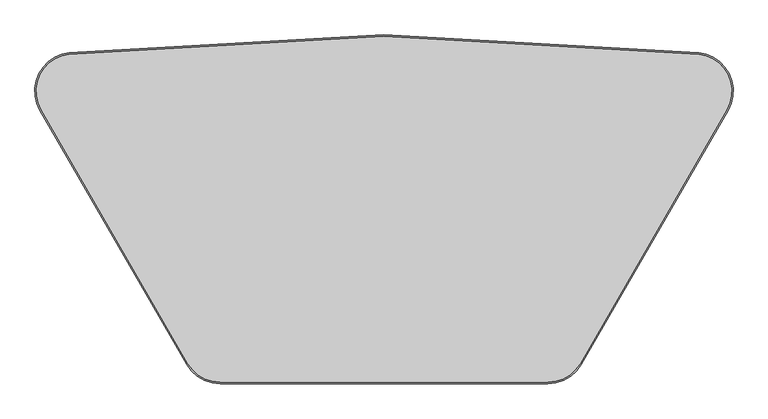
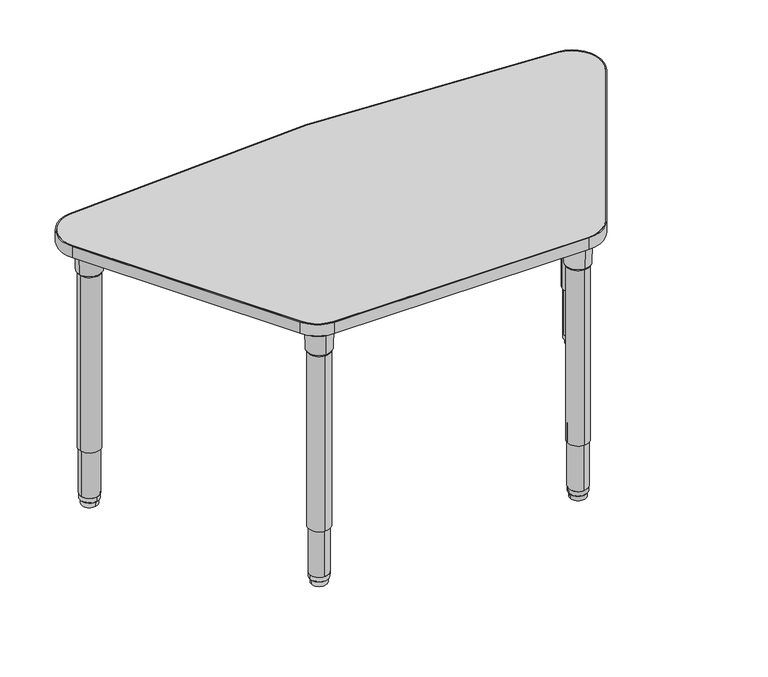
"""IFC4 building model written with IfcOpenShell, lengths in millimetres: furniture geometry, ERG-Mingle-Table-Bowed_Trapezoid : MGLTZD."""

from ifc_helpers import new_model, si_unit, point, frame, frame_2d, origin, place, context, project, spatial, polyline, circle_curve, trimmed, segment, composite_curve, outline, extrude, source, transform, mapped, element, save
from ifc_brep_helpers import plane_surface, cylinder_surface, revolved_surface, advanced_brep


def furniture_8084dfe0(model_context):
    return source(origin(), model_context, "Body", "SolidModel", [
        advanced_brep(
        [(342.9, -249.3646842, 650.5933069), (342.9, -279.4, 650.5933069), (342.9, -309.4353158, 650.5933069), (342.9, -247.256117, 654.3580481), (342.9, -311.543883, 654.3580481), (342.9, -246.3206351, 707.7631458), (342.9, -312.4793649, 707.7631458), (342.9, -242.871083, 714.1198315), (342.9, -315.928917, 714.1198315), (342.9, -242.871083, 726.8198315), (342.9, -315.928917, 726.8198315), (342.9, -279.4, 726.8198315)],
        [
            (0, 1),
            (1, 2),
            (2, 0, circle_curve(frame((342.9, -279.4, 650.5933069), z_axis=(0.0, 0.0, -1.0), x_axis=(0.0, -1.0, 0.0)), 30.0353158)),
            (0, 2, circle_curve(frame((342.9, -279.4, 650.5933069), z_axis=(0.0, 0.0, -1.0), x_axis=(0.0, -1.0, 0.0)), 30.0353158)),
            (3, 0),
            (2, 4),
            (4, 3, circle_curve(frame((342.9, -279.4, 654.3580481), z_axis=(0.0, 0.0, -1.0), x_axis=(0.0, -1.0, 0.0)), 32.143883)),
            (3, 4, circle_curve(frame((342.9, -279.4, 654.3580481), z_axis=(0.0, 0.0, -1.0), x_axis=(0.0, -1.0, 0.0)), 32.143883)),
            (5, 3),
            (4, 6),
            (6, 5, circle_curve(frame((342.9, -279.4, 707.7631458), z_axis=(0.0, 0.0, -1.0), x_axis=(0.0, -1.0, 0.0)), 33.0793649)),
            (5, 6, circle_curve(frame((342.9, -279.4, 707.7631458), z_axis=(0.0, 0.0, -1.0), x_axis=(0.0, -1.0, 0.0)), 33.0793649)),
            (7, 5),
            (6, 8),
            (8, 7, circle_curve(frame((342.9, -279.4, 714.1198315), z_axis=(0.0, 0.0, -1.0), x_axis=(0.0, -1.0, 0.0)), 36.528917)),
            (7, 8, circle_curve(frame((342.9, -279.4, 714.1198315), z_axis=(0.0, 0.0, -1.0), x_axis=(0.0, -1.0, 0.0)), 36.528917)),
            (9, 7),
            (8, 10),
            (10, 9, circle_curve(frame((342.9, -279.4, 726.8198315), z_axis=(0.0, 0.0, -1.0), x_axis=(0.0, -1.0, 0.0)), 36.528917)),
            (9, 10, circle_curve(frame((342.9, -279.4, 726.8198315), z_axis=(0.0, 0.0, -1.0), x_axis=(0.0, -1.0, 0.0)), 36.528917)),
            (11, 9),
            (10, 11),
        ],
        [
            plane_surface(frame((342.9, -279.4, 650.5933069), z_axis=(0.0, 0.0, -1.0), x_axis=(0.0, -1.0, 0.0))),
            revolved_surface(polyline([(342.9, -309.4353158, 650.5933069), (342.9, -311.543883, 654.3580481)]), (342.9, -279.4, 726.8198315), (0.0, 0.0, 1.0)),
            revolved_surface(polyline([(342.9, -311.543883, 654.3580481), (342.9, -312.4793649, 707.7631458)]), (342.9, -279.4, 726.8198315), (0.0, 0.0, 1.0)),
            revolved_surface(polyline([(342.9, -312.4793649, 707.7631458), (342.9, -315.928917, 714.1198315)]), (342.9, -279.4, 726.8198315), (0.0, 0.0, 1.0)),
            cylinder_surface(frame((342.9, -279.4, 726.8198315), z_axis=(0.0, 0.0, 1.0), x_axis=(0.0, -1.0, 0.0)), 36.528917),
            plane_surface(frame((342.9, -279.4, 726.8198315), z_axis=(0.0, 0.0, 1.0), x_axis=(0.0, -1.0, 0.0))),
        ],
        [
            (0, [[1, 2, 3]]),
            (0, [[-2, -1, 4]]),
            (1, [[5, -3, 6, 7]]),
            (1, [[-6, -4, -5, 8]]),
            (2, [[9, -7, 10, 11]]),
            (2, [[-10, -8, -9, 12]]),
            (3, [[13, -11, 14, 15]]),
            (3, [[-14, -12, -13, 16]]),
            (4, [[17, -15, 18, 19]]),
            (4, [[-18, -16, -17, 20]]),
            (5, [[21, -19, 22]]),
            (5, [[-22, -20, -21]]),
        ],
    ),
        extrude(outline(composite_curve([segment(trimmed(circle_curve(frame_2d((260.3223426, -312.573768)), 12.7), [point((260.3223426, -325.273768))], [point((247.6852622, -311.3111525))], False, "CARTESIAN"), True, "CONTINUOUS"), segment(trimmed(circle_curve(frame_2d((390.1830117, -325.5486077)), 143.2072406), [point((247.6852622, -311.3111525))], [point((375.9622394, -183.0491923))], False, "CARTESIAN"), True, "CONTINUOUS"), segment(trimmed(circle_curve(frame_2d((377.2233754, -195.6864205)), 12.7), [point((375.9622394, -183.0491923))], [point((389.9233754, -195.6864205))], False, "CARTESIAN"), True, "CONTINUOUS"), segment(polyline([(389.9233754, -195.6864205), (389.9233754, -309.398768)]), True, "CONTINUOUS"), segment(trimmed(circle_curve(frame_2d((374.0483754, -309.398768)), 15.875), [point((389.9233754, -309.398768))], [point((374.0483754, -325.273768))], False, "CARTESIAN"), True, "CONTINUOUS"), segment(polyline([(374.0483754, -325.273768), (260.3223426, -325.273768)]), True, "CONTINUOUS")], self_intersect=False)), frame((0.0, 0.0, 726.8198315), z_axis=(0.0, 0.0, 1.0), x_axis=(1.0, 0.0, 0.0)), (0.0, 0.0, 1.0), 3.4301685),
        extrude(outline(composite_curve([segment(trimmed(circle_curve(frame_2d((342.9, -279.4)), 28.575), [point((342.9, -307.975))], [point((342.9, -250.825))], False, "CARTESIAN"), True, "CONTINUOUS"), segment(trimmed(circle_curve(frame_2d((342.9, -279.4)), 28.575), [point((342.9, -250.825))], [point((342.9, -307.975))], False, "CARTESIAN"), True, "CONTINUOUS")], self_intersect=False)), frame((0.0, 0.0, 158.3876979), z_axis=(0.0, 0.0, 1.0), x_axis=(1.0, 0.0, 0.0)), (0.0, 0.0, 1.0), 495.4089866),
        extrude(outline(composite_curve([segment(trimmed(circle_curve(frame_2d((342.9, -279.4)), 25.4), [point((342.9, -304.8))], [point((342.9, -254.0))], False, "CARTESIAN"), True, "CONTINUOUS"), segment(trimmed(circle_curve(frame_2d((342.9, -279.4)), 25.4), [point((342.9, -254.0))], [point((342.9, -304.8))], False, "CARTESIAN"), True, "CONTINUOUS")], self_intersect=False)), frame((0.0, 0.0, 28.9580435), z_axis=(0.0, 0.0, 1.0), x_axis=(1.0, 0.0, 0.0)), (0.0, 0.0, 1.0), 176.7049119),
        advanced_brep(
        [(317.6649896, -279.4, 28.9580185), (342.9, -279.4, 28.9580185), (368.1350104, -279.4, 28.9580185), (317.800761, -279.4, 16.3032949), (367.999239, -279.4, 16.3032949), (319.3160619, -279.4, 14.7291007), (366.4839381, -279.4, 14.7291007), (321.7591422, -279.4, 14.7291007), (364.0408578, -279.4, 14.7291007), (321.9521336, -279.4, 0.0), (363.8478664, -279.4, 0.0), (342.9, -279.4, 0.0)],
        [
            (0, 1),
            (1, 2),
            (2, 0, circle_curve(frame((342.9, -279.4, 28.9580185), z_axis=(0.0, 0.0, 1.0), x_axis=(1.0, 0.0, 0.0)), 25.2350104)),
            (0, 2, circle_curve(frame((342.9, -279.4, 28.9580185), z_axis=(0.0, 0.0, 1.0), x_axis=(1.0, 0.0, 0.0)), 25.2350104)),
            (3, 0),
            (2, 4),
            (4, 3, circle_curve(frame((342.9, -279.4, 16.3032949), z_axis=(0.0, 0.0, 1.0), x_axis=(1.0, 0.0, 0.0)), 25.099239)),
            (3, 4, circle_curve(frame((342.9, -279.4, 16.3032949), z_axis=(0.0, 0.0, 1.0), x_axis=(1.0, 0.0, 0.0)), 25.099239)),
            (5, 3),
            (4, 6),
            (6, 5, circle_curve(frame((342.9, -279.4, 14.7291007), z_axis=(0.0, 0.0, 1.0), x_axis=(1.0, 0.0, 0.0)), 23.5839381)),
            (5, 6, circle_curve(frame((342.9, -279.4, 14.7291007), z_axis=(0.0, 0.0, 1.0), x_axis=(1.0, 0.0, 0.0)), 23.5839381)),
            (7, 5),
            (6, 8),
            (8, 7, circle_curve(frame((342.9, -279.4, 14.7291007), z_axis=(0.0, 0.0, 1.0), x_axis=(1.0, 0.0, 0.0)), 21.1408578)),
            (7, 8, circle_curve(frame((342.9, -279.4, 14.7291007), z_axis=(0.0, 0.0, 1.0), x_axis=(1.0, 0.0, 0.0)), 21.1408578)),
            (9, 7),
            (8, 10),
            (10, 9, circle_curve(frame((342.9, -279.4, 0.0), z_axis=(0.0, 0.0, 1.0), x_axis=(1.0, 0.0, 0.0)), 20.9478664)),
            (9, 10, circle_curve(frame((342.9, -279.4, 0.0), z_axis=(0.0, 0.0, 1.0), x_axis=(1.0, 0.0, 0.0)), 20.9478664)),
            (11, 9),
            (10, 11),
        ],
        [
            plane_surface(frame((342.9, -279.4, 28.9580185), z_axis=(0.0, 0.0, 1.0), x_axis=(1.0, 0.0, 0.0))),
            revolved_surface(polyline([(368.1350104, -279.4, 28.9580185), (367.999239, -279.4, 16.3032949)]), (342.9, -279.4, 0.0), (0.0, 0.0, -1.0)),
            revolved_surface(polyline([(367.999239, -279.4, 16.3032949), (366.4839381, -279.4, 14.7291007)]), (342.9, -279.4, 0.0), (0.0, 0.0, -1.0)),
            plane_surface(frame((342.9, -279.4, 14.7291007), z_axis=(0.0, 0.0, -1.0), x_axis=(1.0, 0.0, 0.0))),
            revolved_surface(polyline([(364.0408578, -279.4, 14.7291007), (363.8478664, -279.4, 0.0)]), (342.9, -279.4, 0.0), (0.0, 0.0, -1.0)),
            plane_surface(frame((342.9, -279.4, 0.0), z_axis=(0.0, 0.0, -1.0), x_axis=(1.0, 0.0, 0.0))),
        ],
        [
            (0, [[1, 2, 3]]),
            (0, [[-2, -1, 4]]),
            (1, [[5, -3, 6, 7]]),
            (1, [[-6, -4, -5, 8]]),
            (2, [[9, -7, 10, 11]]),
            (2, [[-10, -8, -9, 12]]),
            (3, [[13, -11, 14, 15]]),
            (3, [[-14, -12, -13, 16]]),
            (4, [[17, -15, 18, 19]]),
            (4, [[-18, -16, -17, 20]]),
            (5, [[21, -19, 22]]),
            (5, [[-22, -20, -21]]),
        ],
    ),
        advanced_brep(
        [(612.3381128, 264.9487118, 650.5933069), (641.35, 257.175, 650.5933069), (670.3618872, 249.4012882, 650.5933069), (610.3013932, 265.4944491, 654.3580481), (672.3986068, 248.8555509, 654.3580481), (609.3977872, 265.7365696, 707.7631458), (673.3022128, 248.6134304, 707.7631458), (606.0657757, 266.6293794, 714.1198315), (676.6342243, 247.7206206, 714.1198315), (606.0657757, 266.6293794, 726.8198315), (676.6342243, 247.7206206, 726.8198315), (641.35, 257.175, 726.8198315)],
        [
            (0, 1),
            (1, 2),
            (2, 0, circle_curve(frame((641.35, 257.175, 650.5933069), z_axis=(0.0, 0.0, -1.0), x_axis=(0.9659258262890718, -0.25881904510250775, 0.0)), 30.0353158)),
            (0, 2, circle_curve(frame((641.35, 257.175, 650.5933069), z_axis=(0.0, 0.0, -1.0), x_axis=(0.9659258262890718, -0.25881904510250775, 0.0)), 30.0353158)),
            (3, 0),
            (2, 4),
            (4, 3, circle_curve(frame((641.35, 257.175, 654.3580481), z_axis=(0.0, 0.0, -1.0), x_axis=(0.9659258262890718, -0.25881904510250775, 0.0)), 32.143883)),
            (3, 4, circle_curve(frame((641.35, 257.175, 654.3580481), z_axis=(0.0, 0.0, -1.0), x_axis=(0.9659258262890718, -0.25881904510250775, 0.0)), 32.143883)),
            (5, 3),
            (4, 6),
            (6, 5, circle_curve(frame((641.35, 257.175, 707.7631458), z_axis=(0.0, 0.0, -1.0), x_axis=(0.9659258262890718, -0.25881904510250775, 0.0)), 33.0793649)),
            (5, 6, circle_curve(frame((641.35, 257.175, 707.7631458), z_axis=(0.0, 0.0, -1.0), x_axis=(0.9659258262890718, -0.25881904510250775, 0.0)), 33.0793649)),
            (7, 5),
            (6, 8),
            (8, 7, circle_curve(frame((641.35, 257.175, 714.1198315), z_axis=(0.0, 0.0, -1.0), x_axis=(0.9659258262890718, -0.25881904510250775, 0.0)), 36.528917)),
            (7, 8, circle_curve(frame((641.35, 257.175, 714.1198315), z_axis=(0.0, 0.0, -1.0), x_axis=(0.9659258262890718, -0.25881904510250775, 0.0)), 36.528917)),
            (9, 7),
            (8, 10),
            (10, 9, circle_curve(frame((641.35, 257.175, 726.8198315), z_axis=(0.0, 0.0, -1.0), x_axis=(0.9659258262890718, -0.25881904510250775, 0.0)), 36.528917)),
            (9, 10, circle_curve(frame((641.35, 257.175, 726.8198315), z_axis=(0.0, 0.0, -1.0), x_axis=(0.9659258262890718, -0.25881904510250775, 0.0)), 36.528917)),
            (11, 9),
            (10, 11),
        ],
        [
            plane_surface(frame((641.35, 257.175, 650.5933069), z_axis=(0.0, 0.0, -1.0), x_axis=(0.9659258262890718, -0.25881904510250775, 0.0))),
            revolved_surface(polyline([(670.3618872, 249.4012882, 650.5933069), (672.3986068, 248.8555509, 654.3580481)]), (641.35, 257.175, 726.8198315), (0.0, 0.0, 1.0)),
            revolved_surface(polyline([(672.3986068, 248.8555509, 654.3580481), (673.3022128, 248.6134304, 707.7631458)]), (641.35, 257.175, 726.8198315), (0.0, 0.0, 1.0)),
            revolved_surface(polyline([(673.3022128, 248.6134304, 707.7631458), (676.6342243, 247.7206206, 714.1198315)]), (641.35, 257.175, 726.8198315), (0.0, 0.0, 1.0)),
            cylinder_surface(frame((641.35, 257.175, 726.8198315), z_axis=(0.0, 0.0, 1.0), x_axis=(0.9659258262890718, -0.25881904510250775, 0.0)), 36.528917),
            plane_surface(frame((641.35, 257.175, 726.8198315), z_axis=(0.0, 0.0, 1.0), x_axis=(0.9659258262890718, -0.25881904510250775, 0.0))),
        ],
        [
            (0, [[1, 2, 3]]),
            (0, [[-2, -1, 4]]),
            (1, [[5, -3, 6, 7]]),
            (1, [[-6, -4, -5, 8]]),
            (2, [[9, -7, 10, 11]]),
            (2, [[-10, -8, -9, 12]]),
            (3, [[13, -11, 14, 15]]),
            (3, [[-14, -12, -13, 16]]),
            (4, [[17, -15, 18, 19]]),
            (4, [[-18, -16, -17, 20]]),
            (5, [[21, -19, 22]]),
            (5, [[-22, -20, -21]]),
        ],
    ),
        extrude(outline(composite_curve([segment(trimmed(circle_curve(frame_2d((652.0207288, 168.8251051)), 12.7), [point((664.2879868, 165.5381032))], [point((647.5304188, 156.9454117))], False, "CARTESIAN"), True, "CONTINUOUS"), segment(trimmed(circle_curve(frame_2d((698.163876, 290.9027435)), 143.2072406), [point((647.5304188, 156.9454117))], [point((556.8394037, 314.048095))], False, "CARTESIAN"), True, "CONTINUOUS"), segment(trimmed(circle_curve(frame_2d((569.3724348, 311.9955035)), 12.7), [point((556.8394037, 314.048095))], [point((572.6594367, 324.2627615))], False, "CARTESIAN"), True, "CONTINUOUS"), segment(polyline([(572.6594367, 324.2627615), (682.4971299, 294.8318403)]), True, "CONTINUOUS"), segment(trimmed(circle_curve(frame_2d((678.3883776, 279.4977678)), 15.875), [point((682.4971299, 294.8318403))], [point((693.7224501, 275.3890154))], False, "CARTESIAN"), True, "CONTINUOUS"), segment(polyline([(693.7224501, 275.3890154), (664.2879868, 165.5381032)]), True, "CONTINUOUS")], self_intersect=False)), frame((0.0, 0.0, 726.8198315), z_axis=(0.0, 0.0, 1.0), x_axis=(1.0, 0.0, 0.0)), (0.0, 0.0, 1.0), 3.4301685),
        extrude(outline(composite_curve([segment(trimmed(circle_curve(frame_2d((641.35, 257.175)), 28.575), [point((668.9513305, 249.7792458))], [point((613.7486695, 264.5707542))], False, "CARTESIAN"), True, "CONTINUOUS"), segment(trimmed(circle_curve(frame_2d((641.35, 257.175)), 28.575), [point((613.7486695, 264.5707542))], [point((668.9513305, 249.7792458))], False, "CARTESIAN"), True, "CONTINUOUS")], self_intersect=False)), frame((0.0, 0.0, 158.3876979), z_axis=(0.0, 0.0, 1.0), x_axis=(1.0, 0.0, 0.0)), (0.0, 0.0, 1.0), 495.4089866),
        extrude(outline(composite_curve([segment(trimmed(circle_curve(frame_2d((641.35, 257.175)), 25.4), [point((665.884516, 250.6009963))], [point((616.815484, 263.7490037))], False, "CARTESIAN"), True, "CONTINUOUS"), segment(trimmed(circle_curve(frame_2d((641.35, 257.175)), 25.4), [point((616.815484, 263.7490037))], [point((665.884516, 250.6009963))], False, "CARTESIAN"), True, "CONTINUOUS")], self_intersect=False)), frame((0.0, 0.0, 28.9580435), z_axis=(0.0, 0.0, 1.0), x_axis=(1.0, 0.0, 0.0)), (0.0, 0.0, 1.0), 176.7049119),
        advanced_brep(
        [(634.8186987, 232.7998517, 28.9580185), (641.35, 257.175, 28.9580185), (647.8813013, 281.5501483, 28.9580185), (634.8538389, 232.9309968, 16.3032949), (647.8461611, 281.4190032, 16.3032949), (635.2460277, 234.3946651, 14.7291007), (647.4539723, 279.9553349, 14.7291007), (635.8783434, 236.7544995, 14.7291007), (646.8216566, 277.5955005, 14.7291007), (635.9282932, 236.9409149, 0.0), (646.7717068, 277.4090851, 0.0), (641.35, 257.175, 0.0)],
        [
            (0, 1),
            (1, 2),
            (2, 0, circle_curve(frame((641.35, 257.175, 28.9580185), z_axis=(0.0, 0.0, 1.0), x_axis=(0.2588190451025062, 0.9659258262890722, 0.0)), 25.2350104)),
            (0, 2, circle_curve(frame((641.35, 257.175, 28.9580185), z_axis=(0.0, 0.0, 1.0), x_axis=(0.2588190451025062, 0.9659258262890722, 0.0)), 25.2350104)),
            (3, 0),
            (2, 4),
            (4, 3, circle_curve(frame((641.35, 257.175, 16.3032949), z_axis=(0.0, 0.0, 1.0), x_axis=(0.2588190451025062, 0.9659258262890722, 0.0)), 25.099239)),
            (3, 4, circle_curve(frame((641.35, 257.175, 16.3032949), z_axis=(0.0, 0.0, 1.0), x_axis=(0.2588190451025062, 0.9659258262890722, 0.0)), 25.099239)),
            (5, 3),
            (4, 6),
            (6, 5, circle_curve(frame((641.35, 257.175, 14.7291007), z_axis=(0.0, 0.0, 1.0), x_axis=(0.2588190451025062, 0.9659258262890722, 0.0)), 23.5839381)),
            (5, 6, circle_curve(frame((641.35, 257.175, 14.7291007), z_axis=(0.0, 0.0, 1.0), x_axis=(0.2588190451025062, 0.9659258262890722, 0.0)), 23.5839381)),
            (7, 5),
            (6, 8),
            (8, 7, circle_curve(frame((641.35, 257.175, 14.7291007), z_axis=(0.0, 0.0, 1.0), x_axis=(0.2588190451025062, 0.9659258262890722, 0.0)), 21.1408578)),
            (7, 8, circle_curve(frame((641.35, 257.175, 14.7291007), z_axis=(0.0, 0.0, 1.0), x_axis=(0.2588190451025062, 0.9659258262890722, 0.0)), 21.1408578)),
            (9, 7),
            (8, 10),
            (10, 9, circle_curve(frame((641.35, 257.175, 0.0), z_axis=(0.0, 0.0, 1.0), x_axis=(0.2588190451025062, 0.9659258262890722, 0.0)), 20.9478664)),
            (9, 10, circle_curve(frame((641.35, 257.175, 0.0), z_axis=(0.0, 0.0, 1.0), x_axis=(0.2588190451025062, 0.9659258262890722, 0.0)), 20.9478664)),
            (11, 9),
            (10, 11),
        ],
        [
            plane_surface(frame((641.35, 257.175, 28.9580185), z_axis=(0.0, 0.0, 1.0), x_axis=(0.2588190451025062, 0.9659258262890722, 0.0))),
            revolved_surface(polyline([(647.8813013, 281.5501483, 28.9580185), (647.8461611, 281.4190032, 16.3032949)]), (641.35, 257.175, 0.0), (0.0, 0.0, -1.0)),
            revolved_surface(polyline([(647.8461611, 281.4190032, 16.3032949), (647.4539723, 279.9553349, 14.7291007)]), (641.35, 257.175, 0.0), (0.0, 0.0, -1.0)),
            plane_surface(frame((641.35, 257.175, 14.7291007), z_axis=(0.0, 0.0, -1.0), x_axis=(0.2588190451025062, 0.9659258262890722, 0.0))),
            revolved_surface(polyline([(646.8216566, 277.5955005, 14.7291007), (646.7717068, 277.4090851, 0.0)]), (641.35, 257.175, 0.0), (0.0, 0.0, -1.0)),
            plane_surface(frame((641.35, 257.175, 0.0), z_axis=(0.0, 0.0, -1.0), x_axis=(0.2588190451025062, 0.9659258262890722, 0.0))),
        ],
        [
            (0, [[1, 2, 3]]),
            (0, [[-2, -1, 4]]),
            (1, [[5, -3, 6, 7]]),
            (1, [[-6, -4, -5, 8]]),
            (2, [[9, -7, 10, 11]]),
            (2, [[-10, -8, -9, 12]]),
            (3, [[13, -11, 14, 15]]),
            (3, [[-14, -12, -13, 16]]),
            (4, [[17, -15, 18, 19]]),
            (4, [[-18, -16, -17, 20]]),
            (5, [[21, -19, 22]]),
            (5, [[-22, -20, -21]]),
        ],
    ),
        advanced_brep(
        [(-342.9, -249.3646842, 650.5933069), (-342.9, -309.4353158, 650.5933069), (-342.9, -279.4, 650.5933069), (-342.9, -247.256117, 654.3580481), (-342.9, -311.543883, 654.3580481), (-342.9, -246.3206351, 707.7631458), (-342.9, -312.4793649, 707.7631458), (-342.9, -242.871083, 714.1198315), (-342.9, -315.928917, 714.1198315), (-342.9, -242.871083, 726.8198315), (-342.9, -315.928917, 726.8198315), (-342.9, -279.4, 726.8198315)],
        [
            (0, 1, circle_curve(frame((-342.9, -279.4, 650.5933069), z_axis=(0.0, 0.0, -1.0), x_axis=(0.0, -1.0, 0.0)), 30.0353158)),
            (1, 2),
            (2, 0),
            (1, 0, circle_curve(frame((-342.9, -279.4, 650.5933069), z_axis=(0.0, 0.0, -1.0), x_axis=(0.0, -1.0, 0.0)), 30.0353158)),
            (3, 4, circle_curve(frame((-342.9, -279.4, 654.3580481), z_axis=(0.0, 0.0, -1.0), x_axis=(0.0, -1.0, 0.0)), 32.143883)),
            (4, 1),
            (0, 3),
            (4, 3, circle_curve(frame((-342.9, -279.4, 654.3580481), z_axis=(0.0, 0.0, -1.0), x_axis=(0.0, -1.0, 0.0)), 32.143883)),
            (5, 6, circle_curve(frame((-342.9, -279.4, 707.7631458), z_axis=(0.0, 0.0, -1.0), x_axis=(0.0, -1.0, 0.0)), 33.0793649)),
            (6, 4),
            (3, 5),
            (6, 5, circle_curve(frame((-342.9, -279.4, 707.7631458), z_axis=(0.0, 0.0, -1.0), x_axis=(0.0, -1.0, 0.0)), 33.0793649)),
            (7, 8, circle_curve(frame((-342.9, -279.4, 714.1198315), z_axis=(0.0, 0.0, -1.0), x_axis=(0.0, -1.0, 0.0)), 36.528917)),
            (8, 6),
            (5, 7),
            (8, 7, circle_curve(frame((-342.9, -279.4, 714.1198315), z_axis=(0.0, 0.0, -1.0), x_axis=(0.0, -1.0, 0.0)), 36.528917)),
            (9, 10, circle_curve(frame((-342.9, -279.4, 726.8198315), z_axis=(0.0, 0.0, -1.0), x_axis=(0.0, -1.0, 0.0)), 36.528917)),
            (10, 8),
            (7, 9),
            (10, 9, circle_curve(frame((-342.9, -279.4, 726.8198315), z_axis=(0.0, 0.0, -1.0), x_axis=(0.0, -1.0, 0.0)), 36.528917)),
            (11, 10),
            (9, 11),
        ],
        [
            plane_surface(frame((-342.9, -279.4, 650.5933069), z_axis=(0.0, 0.0, -1.0), x_axis=(0.0, -1.0, 0.0))),
            revolved_surface(polyline([(-342.9, -309.4353158, 650.5933069), (-342.9, -311.543883, 654.3580481)]), (-342.9, -279.4, 726.8198315), (0.0, 0.0, 1.0)),
            revolved_surface(polyline([(-342.9, -311.543883, 654.3580481), (-342.9, -312.4793649, 707.7631458)]), (-342.9, -279.4, 726.8198315), (0.0, 0.0, 1.0)),
            revolved_surface(polyline([(-342.9, -312.4793649, 707.7631458), (-342.9, -315.928917, 714.1198315)]), (-342.9, -279.4, 726.8198315), (0.0, 0.0, 1.0)),
            cylinder_surface(frame((-342.9, -279.4, 726.8198315), z_axis=(0.0, 0.0, 1.0), x_axis=(0.0, -1.0, 0.0)), 36.528917),
            plane_surface(frame((-342.9, -279.4, 726.8198315), z_axis=(0.0, 0.0, 1.0), x_axis=(0.0, -1.0, 0.0))),
        ],
        [
            (0, [[1, 2, 3]]),
            (0, [[4, -3, -2]]),
            (1, [[5, 6, -1, 7]]),
            (1, [[8, -7, -4, -6]]),
            (2, [[9, 10, -5, 11]]),
            (2, [[12, -11, -8, -10]]),
            (3, [[13, 14, -9, 15]]),
            (3, [[16, -15, -12, -14]]),
            (4, [[17, 18, -13, 19]]),
            (4, [[20, -19, -16, -18]]),
            (5, [[21, -17, 22]]),
            (5, [[-22, -20, -21]]),
        ],
    ),
        extrude(outline(composite_curve([segment(polyline([(-260.3223426, -325.273768), (-374.0483754, -325.273768)]), True, "CONTINUOUS"), segment(trimmed(circle_curve(frame_2d((-374.0483754, -309.398768)), 15.875), [point((-374.0483754, -325.273768))], [point((-389.9233754, -309.398768))], False, "CARTESIAN"), True, "CONTINUOUS"), segment(polyline([(-389.9233754, -309.398768), (-389.9233754, -195.6864205)]), True, "CONTINUOUS"), segment(trimmed(circle_curve(frame_2d((-377.2233754, -195.6864205)), 12.7), [point((-389.9233754, -195.6864205))], [point((-375.9622394, -183.0491923))], False, "CARTESIAN"), True, "CONTINUOUS"), segment(trimmed(circle_curve(frame_2d((-390.1830117, -325.5486077)), 143.2072406), [point((-375.9622394, -183.0491923))], [point((-247.6852622, -311.3111525))], False, "CARTESIAN"), True, "CONTINUOUS"), segment(trimmed(circle_curve(frame_2d((-260.3223426, -312.573768)), 12.7), [point((-247.6852622, -311.3111525))], [point((-260.3223426, -325.273768))], False, "CARTESIAN"), True, "CONTINUOUS")], self_intersect=False)), frame((0.0, 0.0, 726.8198315), z_axis=(0.0, 0.0, 1.0), x_axis=(1.0, 0.0, 0.0)), (0.0, 0.0, 1.0), 3.4301685),
        extrude(outline(composite_curve([segment(trimmed(circle_curve(frame_2d((-342.9, -279.4)), 28.575), [point((-342.9, -307.975))], [point((-342.9, -250.825))], False, "CARTESIAN"), True, "CONTINUOUS"), segment(trimmed(circle_curve(frame_2d((-342.9, -279.4)), 28.575), [point((-342.9, -250.825))], [point((-342.9, -307.975))], False, "CARTESIAN"), True, "CONTINUOUS")], self_intersect=False)), frame((0.0, 0.0, 158.3876979), z_axis=(0.0, 0.0, 1.0), x_axis=(1.0, 0.0, 0.0)), (0.0, 0.0, 1.0), 495.4089866),
        extrude(outline(composite_curve([segment(trimmed(circle_curve(frame_2d((-342.9, -279.4)), 25.4), [point((-342.9, -304.8))], [point((-342.9, -254.0))], False, "CARTESIAN"), True, "CONTINUOUS"), segment(trimmed(circle_curve(frame_2d((-342.9, -279.4)), 25.4), [point((-342.9, -254.0))], [point((-342.9, -304.8))], False, "CARTESIAN"), True, "CONTINUOUS")], self_intersect=False)), frame((0.0, 0.0, 28.9580435), z_axis=(0.0, 0.0, 1.0), x_axis=(1.0, 0.0, 0.0)), (0.0, 0.0, 1.0), 176.7049119),
        advanced_brep(
        [(-317.6649896, -279.4, 28.9580185), (-368.1350104, -279.4, 28.9580185), (-342.9, -279.4, 28.9580185), (-317.800761, -279.4, 16.3032949), (-367.999239, -279.4, 16.3032949), (-319.3160619, -279.4, 14.7291007), (-366.4839381, -279.4, 14.7291007), (-321.7591422, -279.4, 14.7291007), (-364.0408578, -279.4, 14.7291007), (-321.9521336, -279.4, 0.0), (-363.8478664, -279.4, 0.0), (-342.9, -279.4, 0.0)],
        [
            (0, 1, circle_curve(frame((-342.9, -279.4, 28.9580185), z_axis=(0.0, 0.0, 1.0), x_axis=(-1.0, 0.0, 0.0)), 25.2350104)),
            (1, 2),
            (2, 0),
            (1, 0, circle_curve(frame((-342.9, -279.4, 28.9580185), z_axis=(0.0, 0.0, 1.0), x_axis=(-1.0, 0.0, 0.0)), 25.2350104)),
            (3, 4, circle_curve(frame((-342.9, -279.4, 16.3032949), z_axis=(0.0, 0.0, 1.0), x_axis=(-1.0, 0.0, 0.0)), 25.099239)),
            (4, 1),
            (0, 3),
            (4, 3, circle_curve(frame((-342.9, -279.4, 16.3032949), z_axis=(0.0, 0.0, 1.0), x_axis=(-1.0, 0.0, 0.0)), 25.099239)),
            (5, 6, circle_curve(frame((-342.9, -279.4, 14.7291007), z_axis=(0.0, 0.0, 1.0), x_axis=(-1.0, 0.0, 0.0)), 23.5839381)),
            (6, 4),
            (3, 5),
            (6, 5, circle_curve(frame((-342.9, -279.4, 14.7291007), z_axis=(0.0, 0.0, 1.0), x_axis=(-1.0, 0.0, 0.0)), 23.5839381)),
            (7, 8, circle_curve(frame((-342.9, -279.4, 14.7291007), z_axis=(0.0, 0.0, 1.0), x_axis=(-1.0, 0.0, 0.0)), 21.1408578)),
            (8, 6),
            (5, 7),
            (8, 7, circle_curve(frame((-342.9, -279.4, 14.7291007), z_axis=(0.0, 0.0, 1.0), x_axis=(-1.0, 0.0, 0.0)), 21.1408578)),
            (9, 10, circle_curve(frame((-342.9, -279.4, 0.0), z_axis=(0.0, 0.0, 1.0), x_axis=(-1.0, 0.0, 0.0)), 20.9478664)),
            (10, 8),
            (7, 9),
            (10, 9, circle_curve(frame((-342.9, -279.4, 0.0), z_axis=(0.0, 0.0, 1.0), x_axis=(-1.0, 0.0, 0.0)), 20.9478664)),
            (11, 10),
            (9, 11),
        ],
        [
            plane_surface(frame((-342.9, -279.4, 28.9580185), z_axis=(0.0, 0.0, 1.0), x_axis=(-1.0, 0.0, 0.0))),
            revolved_surface(polyline([(-368.1350104, -279.4, 28.9580185), (-367.999239, -279.4, 16.3032949)]), (-342.9, -279.4, 0.0), (0.0, 0.0, -1.0)),
            revolved_surface(polyline([(-367.999239, -279.4, 16.3032949), (-366.4839381, -279.4, 14.7291007)]), (-342.9, -279.4, 0.0), (0.0, 0.0, -1.0)),
            plane_surface(frame((-342.9, -279.4, 14.7291007), z_axis=(0.0, 0.0, -1.0), x_axis=(-1.0, 0.0, 0.0))),
            revolved_surface(polyline([(-364.0408578, -279.4, 14.7291007), (-363.8478664, -279.4, 0.0)]), (-342.9, -279.4, 0.0), (0.0, 0.0, -1.0)),
            plane_surface(frame((-342.9, -279.4, 0.0), z_axis=(0.0, 0.0, -1.0), x_axis=(-1.0, 0.0, 0.0))),
        ],
        [
            (0, [[1, 2, 3]]),
            (0, [[4, -3, -2]]),
            (1, [[5, 6, -1, 7]]),
            (1, [[8, -7, -4, -6]]),
            (2, [[9, 10, -5, 11]]),
            (2, [[12, -11, -8, -10]]),
            (3, [[13, 14, -9, 15]]),
            (3, [[16, -15, -12, -14]]),
            (4, [[17, 18, -13, 19]]),
            (4, [[20, -19, -16, -18]]),
            (5, [[21, -17, 22]]),
            (5, [[-22, -20, -21]]),
        ],
    ),
        advanced_brep(
        [(-612.3381128, 264.9487118, 650.5933069), (-670.3618872, 249.4012882, 650.5933069), (-641.35, 257.175, 650.5933069), (-610.3013932, 265.4944491, 654.3580481), (-672.3986068, 248.8555509, 654.3580481), (-609.3977872, 265.7365696, 707.7631458), (-673.3022128, 248.6134304, 707.7631458), (-606.0657757, 266.6293794, 714.1198315), (-676.6342243, 247.7206206, 714.1198315), (-606.0657757, 266.6293794, 726.8198315), (-676.6342243, 247.7206206, 726.8198315), (-641.35, 257.175, 726.8198315)],
        [
            (0, 1, circle_curve(frame((-641.35, 257.175, 650.5933069), z_axis=(0.0, 0.0, -1.0), x_axis=(-0.9659258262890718, -0.25881904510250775, 0.0)), 30.0353158)),
            (1, 2),
            (2, 0),
            (1, 0, circle_curve(frame((-641.35, 257.175, 650.5933069), z_axis=(0.0, 0.0, -1.0), x_axis=(-0.9659258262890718, -0.25881904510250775, 0.0)), 30.0353158)),
            (3, 4, circle_curve(frame((-641.35, 257.175, 654.3580481), z_axis=(0.0, 0.0, -1.0), x_axis=(-0.9659258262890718, -0.25881904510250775, 0.0)), 32.143883)),
            (4, 1),
            (0, 3),
            (4, 3, circle_curve(frame((-641.35, 257.175, 654.3580481), z_axis=(0.0, 0.0, -1.0), x_axis=(-0.9659258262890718, -0.25881904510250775, 0.0)), 32.143883)),
            (5, 6, circle_curve(frame((-641.35, 257.175, 707.7631458), z_axis=(0.0, 0.0, -1.0), x_axis=(-0.9659258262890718, -0.25881904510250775, 0.0)), 33.0793649)),
            (6, 4),
            (3, 5),
            (6, 5, circle_curve(frame((-641.35, 257.175, 707.7631458), z_axis=(0.0, 0.0, -1.0), x_axis=(-0.9659258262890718, -0.25881904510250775, 0.0)), 33.0793649)),
            (7, 8, circle_curve(frame((-641.35, 257.175, 714.1198315), z_axis=(0.0, 0.0, -1.0), x_axis=(-0.9659258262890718, -0.25881904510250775, 0.0)), 36.528917)),
            (8, 6),
            (5, 7),
            (8, 7, circle_curve(frame((-641.35, 257.175, 714.1198315), z_axis=(0.0, 0.0, -1.0), x_axis=(-0.9659258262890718, -0.25881904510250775, 0.0)), 36.528917)),
            (9, 10, circle_curve(frame((-641.35, 257.175, 726.8198315), z_axis=(0.0, 0.0, -1.0), x_axis=(-0.9659258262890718, -0.25881904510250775, 0.0)), 36.528917)),
            (10, 8),
            (7, 9),
            (10, 9, circle_curve(frame((-641.35, 257.175, 726.8198315), z_axis=(0.0, 0.0, -1.0), x_axis=(-0.9659258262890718, -0.25881904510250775, 0.0)), 36.528917)),
            (11, 10),
            (9, 11),
        ],
        [
            plane_surface(frame((-641.35, 257.175, 650.5933069), z_axis=(0.0, 0.0, -1.0), x_axis=(-0.9659258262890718, -0.25881904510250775, 0.0))),
            revolved_surface(polyline([(-670.3618872, 249.4012882, 650.5933069), (-672.3986068, 248.8555509, 654.3580481)]), (-641.35, 257.175, 726.8198315), (0.0, 0.0, 1.0)),
            revolved_surface(polyline([(-672.3986068, 248.8555509, 654.3580481), (-673.3022128, 248.6134304, 707.7631458)]), (-641.35, 257.175, 726.8198315), (0.0, 0.0, 1.0)),
            revolved_surface(polyline([(-673.3022128, 248.6134304, 707.7631458), (-676.6342243, 247.7206206, 714.1198315)]), (-641.35, 257.175, 726.8198315), (0.0, 0.0, 1.0)),
            cylinder_surface(frame((-641.35, 257.175, 726.8198315), z_axis=(0.0, 0.0, 1.0), x_axis=(-0.9659258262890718, -0.25881904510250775, 0.0)), 36.528917),
            plane_surface(frame((-641.35, 257.175, 726.8198315), z_axis=(0.0, 0.0, 1.0), x_axis=(-0.9659258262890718, -0.25881904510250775, 0.0))),
        ],
        [
            (0, [[1, 2, 3]]),
            (0, [[4, -3, -2]]),
            (1, [[5, 6, -1, 7]]),
            (1, [[8, -7, -4, -6]]),
            (2, [[9, 10, -5, 11]]),
            (2, [[12, -11, -8, -10]]),
            (3, [[13, 14, -9, 15]]),
            (3, [[16, -15, -12, -14]]),
            (4, [[17, 18, -13, 19]]),
            (4, [[20, -19, -16, -18]]),
            (5, [[21, -17, 22]]),
            (5, [[-22, -20, -21]]),
        ],
    ),
        extrude(outline(composite_curve([segment(polyline([(-664.2879868, 165.5381032), (-693.7224501, 275.3890154)]), True, "CONTINUOUS"), segment(trimmed(circle_curve(frame_2d((-678.3883776, 279.4977678)), 15.875), [point((-693.7224501, 275.3890154))], [point((-682.4971299, 294.8318403))], False, "CARTESIAN"), True, "CONTINUOUS"), segment(polyline([(-682.4971299, 294.8318403), (-572.6594367, 324.2627615)]), True, "CONTINUOUS"), segment(trimmed(circle_curve(frame_2d((-569.3724348, 311.9955035)), 12.7), [point((-572.6594367, 324.2627615))], [point((-556.8394037, 314.048095))], False, "CARTESIAN"), True, "CONTINUOUS"), segment(trimmed(circle_curve(frame_2d((-698.163876, 290.9027435)), 143.2072406), [point((-556.8394037, 314.048095))], [point((-647.5304188, 156.9454117))], False, "CARTESIAN"), True, "CONTINUOUS"), segment(trimmed(circle_curve(frame_2d((-652.0207288, 168.8251051)), 12.7), [point((-647.5304188, 156.9454117))], [point((-664.2879868, 165.5381032))], False, "CARTESIAN"), True, "CONTINUOUS")], self_intersect=False)), frame((0.0, 0.0, 726.8198315), z_axis=(0.0, 0.0, 1.0), x_axis=(1.0, 0.0, 0.0)), (0.0, 0.0, 1.0), 3.4301685),
        extrude(outline(composite_curve([segment(trimmed(circle_curve(frame_2d((-641.35, 257.175)), 28.575), [point((-668.9513305, 249.7792458))], [point((-613.7486695, 264.5707542))], False, "CARTESIAN"), True, "CONTINUOUS"), segment(trimmed(circle_curve(frame_2d((-641.35, 257.175)), 28.575), [point((-613.7486695, 264.5707542))], [point((-668.9513305, 249.7792458))], False, "CARTESIAN"), True, "CONTINUOUS")], self_intersect=False)), frame((0.0, 0.0, 158.3876979), z_axis=(0.0, 0.0, 1.0), x_axis=(1.0, 0.0, 0.0)), (0.0, 0.0, 1.0), 495.4089866),
        extrude(outline(composite_curve([segment(trimmed(circle_curve(frame_2d((-641.35, 257.175)), 25.4), [point((-665.884516, 250.6009963))], [point((-616.815484, 263.7490037))], False, "CARTESIAN"), True, "CONTINUOUS"), segment(trimmed(circle_curve(frame_2d((-641.35, 257.175)), 25.4), [point((-616.815484, 263.7490037))], [point((-665.884516, 250.6009963))], False, "CARTESIAN"), True, "CONTINUOUS")], self_intersect=False)), frame((0.0, 0.0, 28.9580435), z_axis=(0.0, 0.0, 1.0), x_axis=(1.0, 0.0, 0.0)), (0.0, 0.0, 1.0), 176.7049119),
        advanced_brep(
        [(-634.8186987, 232.7998517, 28.9580185), (-647.8813013, 281.5501483, 28.9580185), (-641.35, 257.175, 28.9580185), (-634.8538389, 232.9309968, 16.3032949), (-647.8461611, 281.4190032, 16.3032949), (-635.2460277, 234.3946651, 14.7291007), (-647.4539723, 279.9553349, 14.7291007), (-635.8783434, 236.7544995, 14.7291007), (-646.8216566, 277.5955005, 14.7291007), (-635.9282932, 236.9409149, 0.0), (-646.7717068, 277.4090851, 0.0), (-641.35, 257.175, 0.0)],
        [
            (0, 1, circle_curve(frame((-641.35, 257.175, 28.9580185), z_axis=(0.0, 0.0, 1.0), x_axis=(-0.2588190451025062, 0.9659258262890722, 0.0)), 25.2350104)),
            (1, 2),
            (2, 0),
            (1, 0, circle_curve(frame((-641.35, 257.175, 28.9580185), z_axis=(0.0, 0.0, 1.0), x_axis=(-0.2588190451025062, 0.9659258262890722, 0.0)), 25.2350104)),
            (3, 4, circle_curve(frame((-641.35, 257.175, 16.3032949), z_axis=(0.0, 0.0, 1.0), x_axis=(-0.2588190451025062, 0.9659258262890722, 0.0)), 25.099239)),
            (4, 1),
            (0, 3),
            (4, 3, circle_curve(frame((-641.35, 257.175, 16.3032949), z_axis=(0.0, 0.0, 1.0), x_axis=(-0.2588190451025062, 0.9659258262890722, 0.0)), 25.099239)),
            (5, 6, circle_curve(frame((-641.35, 257.175, 14.7291007), z_axis=(0.0, 0.0, 1.0), x_axis=(-0.2588190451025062, 0.9659258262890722, 0.0)), 23.5839381)),
            (6, 4),
            (3, 5),
            (6, 5, circle_curve(frame((-641.35, 257.175, 14.7291007), z_axis=(0.0, 0.0, 1.0), x_axis=(-0.2588190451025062, 0.9659258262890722, 0.0)), 23.5839381)),
            (7, 8, circle_curve(frame((-641.35, 257.175, 14.7291007), z_axis=(0.0, 0.0, 1.0), x_axis=(-0.2588190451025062, 0.9659258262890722, 0.0)), 21.1408578)),
            (8, 6),
            (5, 7),
            (8, 7, circle_curve(frame((-641.35, 257.175, 14.7291007), z_axis=(0.0, 0.0, 1.0), x_axis=(-0.2588190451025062, 0.9659258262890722, 0.0)), 21.1408578)),
            (9, 10, circle_curve(frame((-641.35, 257.175, 0.0), z_axis=(0.0, 0.0, 1.0), x_axis=(-0.2588190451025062, 0.9659258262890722, 0.0)), 20.9478664)),
            (10, 8),
            (7, 9),
            (10, 9, circle_curve(frame((-641.35, 257.175, 0.0), z_axis=(0.0, 0.0, 1.0), x_axis=(-0.2588190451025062, 0.9659258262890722, 0.0)), 20.9478664)),
            (11, 10),
            (9, 11),
        ],
        [
            plane_surface(frame((-641.35, 257.175, 28.9580185), z_axis=(0.0, 0.0, 1.0), x_axis=(-0.2588190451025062, 0.9659258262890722, 0.0))),
            revolved_surface(polyline([(-647.8813013, 281.5501483, 28.9580185), (-647.8461611, 281.4190032, 16.3032949)]), (-641.35, 257.175, 0.0), (0.0, 0.0, -1.0)),
            revolved_surface(polyline([(-647.8461611, 281.4190032, 16.3032949), (-647.4539723, 279.9553349, 14.7291007)]), (-641.35, 257.175, 0.0), (0.0, 0.0, -1.0)),
            plane_surface(frame((-641.35, 257.175, 14.7291007), z_axis=(0.0, 0.0, -1.0), x_axis=(-0.2588190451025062, 0.9659258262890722, 0.0))),
            revolved_surface(polyline([(-646.8216566, 277.5955005, 14.7291007), (-646.7717068, 277.4090851, 0.0)]), (-641.35, 257.175, 0.0), (0.0, 0.0, -1.0)),
            plane_surface(frame((-641.35, 257.175, 0.0), z_axis=(0.0, 0.0, -1.0), x_axis=(-0.2588190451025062, 0.9659258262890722, 0.0))),
        ],
        [
            (0, [[1, 2, 3]]),
            (0, [[4, -3, -2]]),
            (1, [[5, 6, -1, 7]]),
            (1, [[8, -7, -4, -6]]),
            (2, [[9, 10, -5, 11]]),
            (2, [[12, -11, -8, -10]]),
            (3, [[13, 14, -9, 15]]),
            (3, [[16, -15, -12, -14]]),
            (4, [[17, 18, -13, 19]]),
            (4, [[20, -19, -16, -18]]),
            (5, [[21, -17, 22]]),
            (5, [[-22, -20, -21]]),
        ],
    ),
        extrude(outline(composite_curve([segment(trimmed(circle_curve(frame_2d((638.5402593, 259.7505566)), 76.2), [point((647.1518483, 335.4623822))], [point((704.5313951, 221.6505566))], False, "CARTESIAN"), True, "CONTINUOUS"), segment(polyline([(704.5313951, 221.6505566), (402.9973128, -300.6217941)]), True, "CONTINUOUS"), segment(trimmed(circle_curve(frame_2d((337.0061771, -262.5217941)), 76.2), [point((402.9973128, -300.6217941))], [point((337.0061771, -338.7217941))], False, "CARTESIAN"), True, "CONTINUOUS"), segment(polyline([(337.0061771, -338.7217941), (-337.0062621, -338.7217941)]), True, "CONTINUOUS"), segment(trimmed(circle_curve(frame_2d((-337.0062621, -262.5217941)), 76.2), [point((-337.0062621, -338.7217941))], [point((-402.9973978, -300.6217941))], False, "CARTESIAN"), True, "CONTINUOUS"), segment(polyline([(-402.9973978, -300.6217941), (-704.5314794, 221.6505553)]), True, "CONTINUOUS"), segment(trimmed(circle_curve(frame_2d((-638.5403436, 259.7505553)), 76.2), [point((-704.5314794, 221.6505553))], [point((-647.1519327, 335.4623809))], False, "CARTESIAN"), True, "CONTINUOUS"), segment(trimmed(circle_curve(frame_2d((-3.63e-05, -5354.2019559)), 5726.3501326), [point((-647.1519327, 335.4623809))], [point((647.1518483, 335.4623822))], False, "CARTESIAN"), True, "CONTINUOUS")], self_intersect=False)), frame((0.0, 0.0, 730.25), z_axis=(0.0, 0.0, 1.0), x_axis=(1.0, 0.0, 0.0)), (0.0, 0.0, 1.0), 31.75),
        extrude(outline(composite_curve([segment(polyline([(-405.7470285, -302.2092941), (-707.28111, 220.0630553)]), True, "CONTINUOUS"), segment(trimmed(circle_curve(frame_2d((-638.5403436, 259.7505553)), 79.375), [point((-707.28111, 220.0630553))], [point((-647.5107489, 338.6170403))], False, "CARTESIAN"), True, "CONTINUOUS"), segment(trimmed(circle_curve(frame_2d((-3.63e-05, -5354.2019559)), 5729.5251326), [point((-647.5107489, 338.6170403))], [point((647.5106645, 338.6170416))], False, "CARTESIAN"), True, "CONTINUOUS"), segment(trimmed(circle_curve(frame_2d((638.5402593, 259.7505566)), 79.375), [point((647.5106645, 338.6170416))], [point((707.2810258, 220.0630566))], False, "CARTESIAN"), True, "CONTINUOUS"), segment(polyline([(707.2810258, 220.0630566), (405.7469435, -302.2092941)]), True, "CONTINUOUS"), segment(trimmed(circle_curve(frame_2d((337.0061771, -262.5217941)), 79.375), [point((405.7469435, -302.2092941))], [point((337.0061771, -341.8967941))], False, "CARTESIAN"), True, "CONTINUOUS"), segment(polyline([(337.0061771, -341.8967941), (-337.0062621, -341.8967941)]), True, "CONTINUOUS"), segment(trimmed(circle_curve(frame_2d((-337.0062621, -262.5217941)), 79.375), [point((-337.0062621, -341.8967941))], [point((-405.7470285, -302.2092941))], False, "CARTESIAN"), True, "CONTINUOUS")], self_intersect=False), holes=[composite_curve([segment(trimmed(circle_curve(frame_2d((-3.63e-05, -5354.2019559)), 5726.3501326), [point((647.1518483, 335.4623822))], [point((-647.1519327, 335.4623809))], True, "CARTESIAN"), True, "CONTINUOUS"), segment(trimmed(circle_curve(frame_2d((-638.5403436, 259.7505553)), 76.2), [point((-647.1519327, 335.4623809))], [point((-704.5314794, 221.6505553))], True, "CARTESIAN"), True, "CONTINUOUS"), segment(polyline([(-704.5314794, 221.6505553), (-402.9973978, -300.6217941)]), True, "CONTINUOUS"), segment(trimmed(circle_curve(frame_2d((-337.0062621, -262.5217941)), 76.2), [point((-402.9973978, -300.6217941))], [point((-337.0062621, -338.7217941))], True, "CARTESIAN"), True, "CONTINUOUS"), segment(polyline([(-337.0062621, -338.7217941), (337.0061771, -338.7217941)]), True, "CONTINUOUS"), segment(trimmed(circle_curve(frame_2d((337.0061771, -262.5217941)), 76.2), [point((337.0061771, -338.7217941))], [point((402.9973128, -300.6217941))], True, "CARTESIAN"), True, "CONTINUOUS"), segment(polyline([(402.9973128, -300.6217941), (704.5313951, 221.6505566)]), True, "CONTINUOUS"), segment(trimmed(circle_curve(frame_2d((638.5402593, 259.7505566)), 76.2), [point((704.5313951, 221.6505566))], [point((647.1518483, 335.4623822))], True, "CARTESIAN"), True, "CONTINUOUS")], self_intersect=False)]), frame((0.0, 0.0, 730.25), z_axis=(0.0, 0.0, 1.0), x_axis=(1.0, 0.0, 0.0)), (0.0, 0.0, 1.0), 31.75),
    ])


if __name__ == "__main__":
    model = new_model("IFC4")
    model_context = context("Model", 3, world=origin())
    ifc_project = project(units=[si_unit("LENGTHUNIT", "METRE", prefix="MILLI")], contexts=[model_context])
    site = spatial("IfcSite", under=ifc_project)
    building = spatial("IfcBuilding", under=site)
    placement = place(None, origin())
    furniture_shape = furniture_8084dfe0(model_context)
    element("IfcFurniture", 1, ObjectType="ERG-Mingle-Table-Bowed_Trapezoid : MGLTZD", at=placement, inside=building, context=model_context, shape_type="MappedRepresentation", body=[
        mapped(furniture_shape, transform((0.0, 0.0, 0.0), x_axis=(1.0, 0.0, 0.0), y_axis=(0.0, 1.0, 0.0), z_axis=(0.0, 0.0, 1.0))),
    ])
    save(model, "model.ifc")
